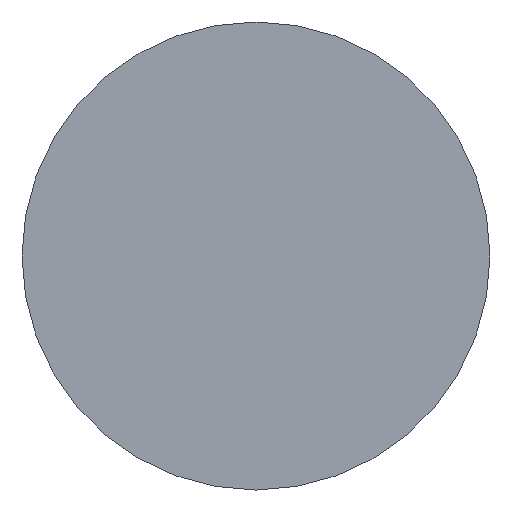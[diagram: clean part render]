
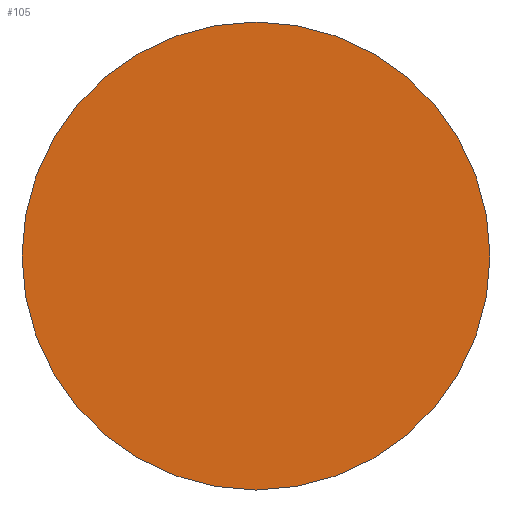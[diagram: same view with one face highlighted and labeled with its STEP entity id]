
A CAD part, left-side view. The second image highlights one B-rep face of the part: STEP entity #105.
In plain terms, the highlighted planar face has unit normal (-1, 0, 0).
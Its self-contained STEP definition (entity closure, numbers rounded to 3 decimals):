
#21 = EDGE_CURVE('',#22,#22,#24,.T.);
#22 = VERTEX_POINT('',#23);
#23 = CARTESIAN_POINT('',(0.,0.,-4.));
#24 = SURFACE_CURVE('',#25,(#30,#42),.PCURVE_S1.);
#25 = CIRCLE('',#26,4.);
#26 = AXIS2_PLACEMENT_3D('',#27,#28,#29);
#27 = CARTESIAN_POINT('',(0.,0.,0.));
#28 = DIRECTION('',(1.,-0.,0.));
#29 = DIRECTION('',(0.,0.,-1.));
#30 = PCURVE('',#31,#36);
#31 = CYLINDRICAL_SURFACE('',#32,4.);
#32 = AXIS2_PLACEMENT_3D('',#33,#34,#35);
#33 = CARTESIAN_POINT('',(0.,0.,0.));
#34 = DIRECTION('',(-1.,-0.,0.));
#35 = DIRECTION('',(0.,0.,-1.));
#36 = DEFINITIONAL_REPRESENTATION('',(#37),#41);
#37 = LINE('',#38,#39);
#38 = CARTESIAN_POINT('',(-0.,0.));
#39 = VECTOR('',#40,1.);
#40 = DIRECTION('',(-1.,0.));
#41 = ( GEOMETRIC_REPRESENTATION_CONTEXT(2) 
PARAMETRIC_REPRESENTATION_CONTEXT() REPRESENTATION_CONTEXT('2D SPACE',''
  ) );
#42 = PCURVE('',#43,#48);
#43 = PLANE('',#44);
#44 = AXIS2_PLACEMENT_3D('',#45,#46,#47);
#45 = CARTESIAN_POINT('',(0.,0.,
    0.));
#46 = DIRECTION('',(1.,0.,0.));
#47 = DIRECTION('',(0.,0.,-1.));
#48 = DEFINITIONAL_REPRESENTATION('',(#49),#53);
#49 = CIRCLE('',#50,4.);
#50 = AXIS2_PLACEMENT_2D('',#51,#52);
#51 = CARTESIAN_POINT('',(0.,0.));
#52 = DIRECTION('',(1.,0.));
#53 = ( GEOMETRIC_REPRESENTATION_CONTEXT(2) 
PARAMETRIC_REPRESENTATION_CONTEXT() REPRESENTATION_CONTEXT('2D SPACE',''
  ) );
#105 = ADVANCED_FACE('',(#106),#43,.F.);
#106 = FACE_BOUND('',#107,.F.);
#107 = EDGE_LOOP('',(#108));
#108 = ORIENTED_EDGE('',*,*,#21,.T.);
